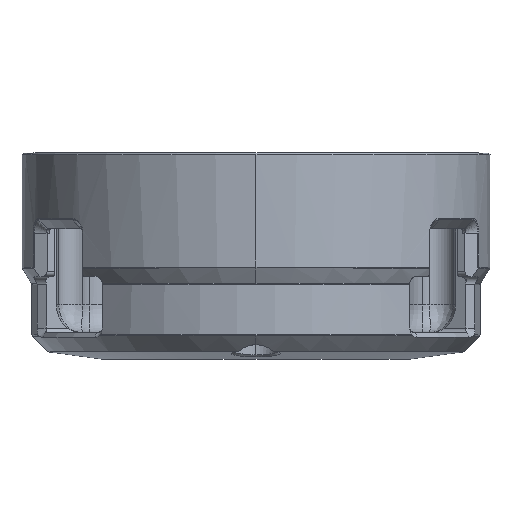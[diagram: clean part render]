
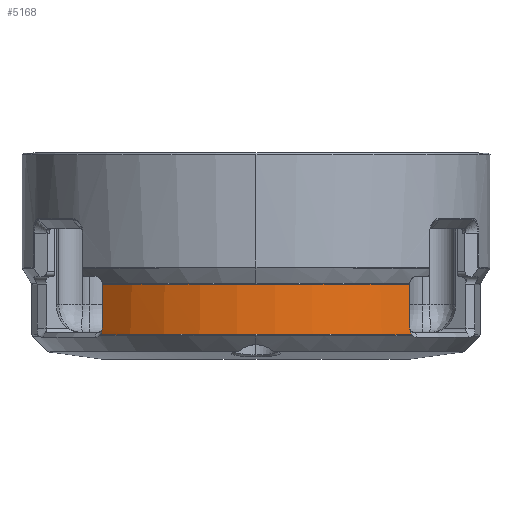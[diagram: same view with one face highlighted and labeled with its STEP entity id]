
A CAD part, top view. The second image highlights one B-rep face of the part: STEP entity #5168.
In plain terms, the highlighted cylindrical face has radius 24 mm (diameter 48 mm), a partial arc.
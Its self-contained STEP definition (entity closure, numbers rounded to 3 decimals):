
#544 = VERTEX_POINT ( 'NONE', #4864 ) ;
#763 = AXIS2_PLACEMENT_3D ( 'NONE', #8851, #7715, #10221 ) ;
#829 = EDGE_CURVE ( 'NONE', #3865, #7891, #8986, .T. ) ;
#1118 = DIRECTION ( 'NONE',  ( 0., 0., -1. ) ) ;
#1338 = DIRECTION ( 'NONE',  ( 0., 1., 0. ) ) ;
#1425 = CARTESIAN_POINT ( 'NONE',  ( 16.424, 3.3, 17.5 ) ) ;
#1634 = DIRECTION ( 'NONE',  ( 0., 0., -1. ) ) ;
#2260 = B_SPLINE_CURVE_WITH_KNOTS ( 'NONE', 3,
 ( #4550, #13474, #3234, #2267 ),
 .UNSPECIFIED., .F., .F.,
 ( 4, 4 ),
 ( 0.12, 1. ),
 .UNSPECIFIED. ) ;
#2267 = CARTESIAN_POINT ( 'NONE',  ( 16.424, 3.3, 17.5 ) ) ;
#2290 = B_SPLINE_CURVE_WITH_KNOTS ( 'NONE', 3,
 ( #13614, #12642, #15170, #13942 ),
 .UNSPECIFIED., .F., .F.,
 ( 4, 4 ),
 ( 0., 0.88 ),
 .UNSPECIFIED. ) ;
#2851 = CARTESIAN_POINT ( 'NONE',  ( 0., 8., 0. ) ) ;
#3234 = CARTESIAN_POINT ( 'NONE',  ( 16.424, 3.044, 17.5 ) ) ;
#3540 = ORIENTED_EDGE ( 'NONE', *, *, #12739, .T. ) ;
#3865 = VERTEX_POINT ( 'NONE', #5206 ) ;
#4550 = CARTESIAN_POINT ( 'NONE',  ( 16.595, 2.583, 17.338 ) ) ;
#4759 = ORIENTED_EDGE ( 'NONE', *, *, #7602, .T. ) ;
#4793 = CARTESIAN_POINT ( 'NONE',  ( 0., 7.946, 0. ) ) ;
#4848 = LINE ( 'NONE', #12466, #12074 ) ;
#4864 = CARTESIAN_POINT ( 'NONE',  ( -16.424, 3.3, 17.5 ) ) ;
#5107 = DIRECTION ( 'NONE',  ( 0., -1., 0. ) ) ;
#5168 = ADVANCED_FACE ( 'NONE', ( #6591 ), #11553, .T. ) ;
#5206 = CARTESIAN_POINT ( 'NONE',  ( 16.424, 7.946, 17.5 ) ) ;
#5379 = EDGE_LOOP ( 'NONE', ( #14018, #4759, #3540, #10704, #15048, #12678 ) ) ;
#5686 = VERTEX_POINT ( 'NONE', #10932 ) ;
#6591 = FACE_OUTER_BOUND ( 'NONE', #5379, .T. ) ;
#7307 = DIRECTION ( 'NONE',  ( 0., -1., 0. ) ) ;
#7436 = AXIS2_PLACEMENT_3D ( 'NONE', #4793, #7307, #1118 ) ;
#7602 = EDGE_CURVE ( 'NONE', #5686, #15909, #11155, .T. ) ;
#7622 = CARTESIAN_POINT ( 'NONE',  ( -16.424, 8., 17.5 ) ) ;
#7715 = DIRECTION ( 'NONE',  ( 0., 1., 0. ) ) ;
#7769 = VERTEX_POINT ( 'NONE', #1425 ) ;
#7891 = VERTEX_POINT ( 'NONE', #11889 ) ;
#8851 = CARTESIAN_POINT ( 'NONE',  ( 0., 2.583, 0. ) ) ;
#8986 = CIRCLE ( 'NONE', #7436, 24. ) ;
#9688 = EDGE_CURVE ( 'NONE', #7769, #3865, #4848, .T. ) ;
#9768 = AXIS2_PLACEMENT_3D ( 'NONE', #2851, #15135, #1634 ) ;
#10221 = DIRECTION ( 'NONE',  ( 0., 0., -1. ) ) ;
#10704 = ORIENTED_EDGE ( 'NONE', *, *, #9688, .T. ) ;
#10932 = CARTESIAN_POINT ( 'NONE',  ( -16.595, 2.583, 17.338 ) ) ;
#11155 = CIRCLE ( 'NONE', #763, 24. ) ;
#11553 = CYLINDRICAL_SURFACE ( 'NONE', #9768, 24. ) ;
#11558 = EDGE_CURVE ( 'NONE', #544, #5686, #2290, .T. ) ;
#11889 = CARTESIAN_POINT ( 'NONE',  ( -16.424, 7.946, 17.5 ) ) ;
#12074 = VECTOR ( 'NONE', #1338, 1000. ) ;
#12466 = CARTESIAN_POINT ( 'NONE',  ( 16.424, 8., 17.5 ) ) ;
#12502 = VECTOR ( 'NONE', #5107, 1000. ) ;
#12642 = CARTESIAN_POINT ( 'NONE',  ( -16.424, 3.043, 17.5 ) ) ;
#12678 = ORIENTED_EDGE ( 'NONE', *, *, #14423, .T. ) ;
#12739 = EDGE_CURVE ( 'NONE', #15909, #7769, #2260, .T. ) ;
#13474 = CARTESIAN_POINT ( 'NONE',  ( 16.486, 2.791, 17.443 ) ) ;
#13614 = CARTESIAN_POINT ( 'NONE',  ( -16.424, 3.3, 17.5 ) ) ;
#13942 = CARTESIAN_POINT ( 'NONE',  ( -16.595, 2.583, 17.338 ) ) ;
#13945 = LINE ( 'NONE', #7622, #12502 ) ;
#14018 = ORIENTED_EDGE ( 'NONE', *, *, #11558, .T. ) ;
#14423 = EDGE_CURVE ( 'NONE', #7891, #544, #13945, .T. ) ;
#14500 = CARTESIAN_POINT ( 'NONE',  ( 16.595, 2.583, 17.338 ) ) ;
#15048 = ORIENTED_EDGE ( 'NONE', *, *, #829, .T. ) ;
#15135 = DIRECTION ( 'NONE',  ( 0., -1., 0. ) ) ;
#15170 = CARTESIAN_POINT ( 'NONE',  ( -16.486, 2.791, 17.442 ) ) ;
#15909 = VERTEX_POINT ( 'NONE', #14500 ) ;
